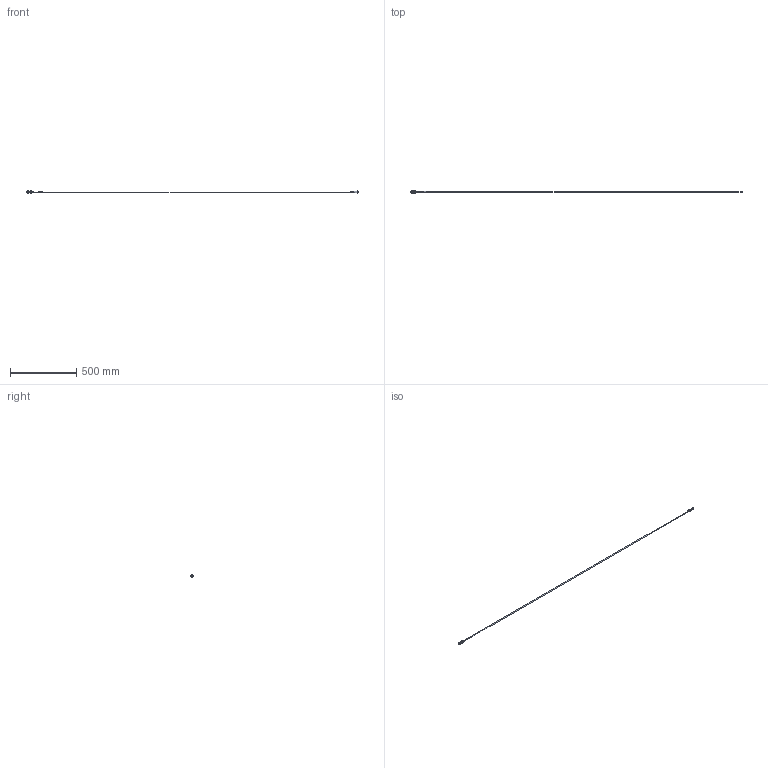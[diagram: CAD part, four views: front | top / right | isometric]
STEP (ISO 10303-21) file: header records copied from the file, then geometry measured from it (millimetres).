
FILE_DESCRIPTION(/* description */ ('VX1348B Serial Pigtail B2465E0E35D'),/* implementation_level */ '2;1');
FILE_NAME(/* name */ 'WIR_000041_CUST_iam.STP',/* time_stamp */ '2025-09-01T11:46:13+02:00',/* author */ ('vismat'),/* organization */ (''),/* preprocessor_version */ 'ST-DEVELOPER v20',/* originating_system */ 'Autodesk Inventor 2024',/* authorisation */ '');
FILE_SCHEMA (('AUTOMOTIVE_DESIGN { 1 0 10303 214 3 1 1 }'));
Length unit declared in the file: millimetre
Products named in the file (16): WIR_000041_CUST; WIR_000041; WIR_001417; CMP_002106; LBL_001004; CMP_002104; CMP_001390; CMP_001390_S1; CMP_001390_S2; CMP_001390_S3; CMP_001390_S4; CMP_002105; CMP_002100; CMP_002107; WIR_000041_SUB1; CMP_002830
Assembly tree (29 placements, depth 4):
  WIR_000041_CUST
    WIR_000041
      WIR_001417
      CMP_002106
      LBL_001004
      CMP_002104
      CMP_001390
        CMP_001390_S1
        CMP_001390_S2
        CMP_001390_S3
        CMP_001390_S4
      CMP_002105  x15
      CMP_002100
      CMP_002107
      WIR_000041_SUB1
      CMP_002830
Bounding box: 2500 x 17.08 x 18 mm (x, y, z)
Volume: 75486.4 mm3; surface area: 69395.4 mm2
Topology: 30 solids, 34 shells, 6530 faces, 17851 edges, 11716 vertices
Faces by surface type: plane 3951, bspline 1366, cylinder 994, cone 143, torus 62, sphere 14
Full cylindrical faces by diameter (mm): 0.199 x1, 0.237 x1, 0.44 x2, 0.45 x14, 0.5 x14, 0.52 x14, 0.7 x15, 0.8 x14, 0.9 x15, 0.94 x15, 1.02 x14, 1.2 x1, 1.6 x1, 5.8 x1, 5.9 x2, 6 x5, 6.1 x2, 6.132 x1, 6.2 x2, 6.3 x1, 6.5 x1, 6.7 x1, 6.8 x2, 7 x1, 7.2 x2, 7.3 x1, 7.4 x1, 7.5 x1, 7.7 x1, 7.8 x1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
Entity records: 222921 total; most frequent: CARTESIAN_POINT 101291, ORIENTED_EDGE 27142, DIRECTION 20901, EDGE_CURVE 13581, VERTEX_POINT 8972, LINE 7275, VECTOR 7275, AXIS2_PLACEMENT_3D 6813
